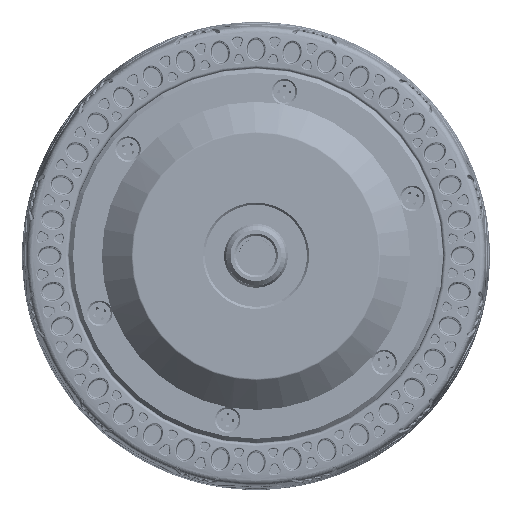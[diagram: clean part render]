
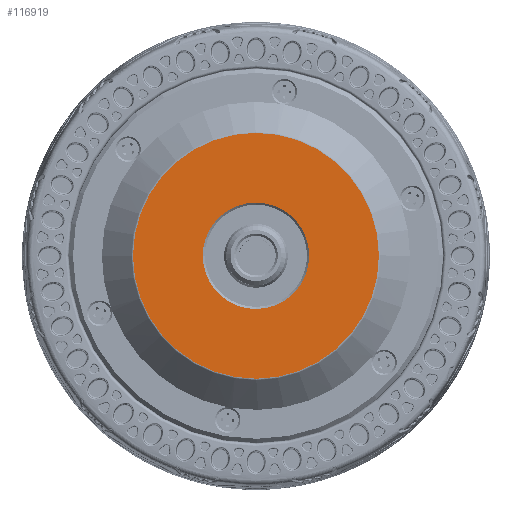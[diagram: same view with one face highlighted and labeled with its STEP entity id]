
A CAD part, top view. The second image highlights one B-rep face of the part: STEP entity #116919.
In plain terms, the highlighted planar face has unit normal (0, 0, 1) as drawn and (0, 0, -1) by its records, which use the part's own axes.
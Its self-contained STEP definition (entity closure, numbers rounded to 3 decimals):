
#25088=FACE_BOUND('',#34026,.T.);
#25503=FACE_OUTER_BOUND('',#34025,.T.);
#34025=EDGE_LOOP('',(#78062));
#34026=EDGE_LOOP('',(#78063));
#42868=CIRCLE('',#125707,28.893);
#42869=CIRCLE('',#125708,12.5);
#47294=VERTEX_POINT('',#157304);
#47295=VERTEX_POINT('',#157306);
#58529=EDGE_CURVE('',#47294,#47294,#42868,.T.);
#58530=EDGE_CURVE('',#47295,#47295,#42869,.T.);
#78062=ORIENTED_EDGE('',*,*,#58529,.T.);
#78063=ORIENTED_EDGE('',*,*,#58530,.T.);
#116171=PLANE('',#125706);
#116919=ADVANCED_FACE('',(#25503,#25088),#116171,.T.);
#125706=AXIS2_PLACEMENT_3D('',#157303,#135800,#135801);
#125707=AXIS2_PLACEMENT_3D('',#157305,#135802,#135803);
#125708=AXIS2_PLACEMENT_3D('',#157307,#135804,#135805);
#135800=DIRECTION('center_axis',(0.,0.,-1.));
#135801=DIRECTION('ref_axis',(-1.,0.,0.));
#135802=DIRECTION('center_axis',(0.,0.,-1.));
#135803=DIRECTION('ref_axis',(-1.,0.,0.));
#135804=DIRECTION('center_axis',(0.,0.,1.));
#135805=DIRECTION('ref_axis',(-1.,0.,0.));
#157303=CARTESIAN_POINT('Origin',(0.,0.,-2.1));
#157304=CARTESIAN_POINT('',(28.893,0.,-2.1));
#157305=CARTESIAN_POINT('Origin',(0.,0.,-2.1));
#157306=CARTESIAN_POINT('',(12.5,0.,-2.1));
#157307=CARTESIAN_POINT('Origin',(0.,0.,-2.1));
